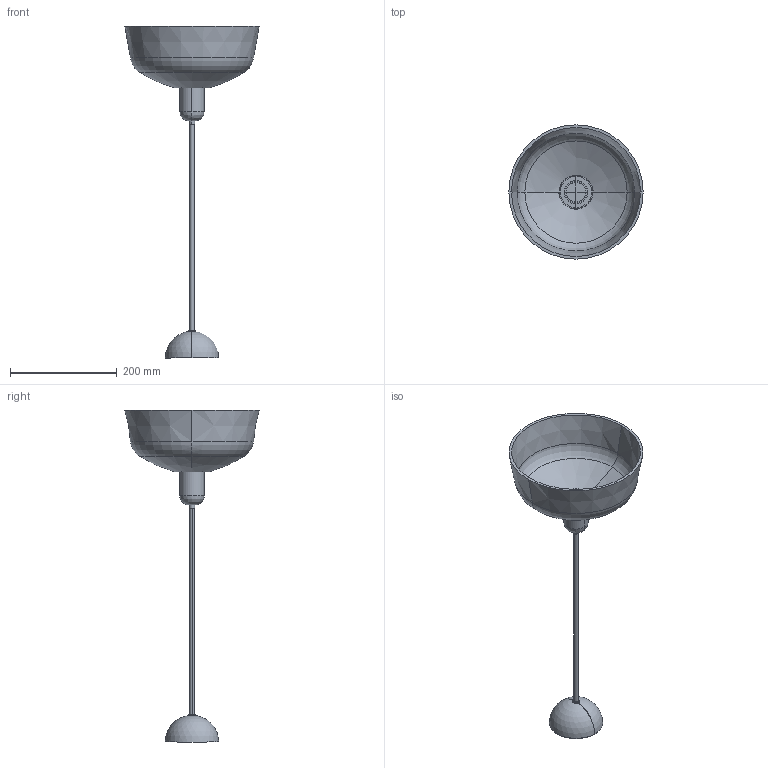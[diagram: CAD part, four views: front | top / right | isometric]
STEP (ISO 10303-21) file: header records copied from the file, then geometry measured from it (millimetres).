
FILE_DESCRIPTION(/* description */ (''),/* implementation_level */ '2;1');
FILE_NAME(/* name */ '20339-119.step',/* time_stamp */ '2024-05-29T13:30:05+02:00',/* author */ ('RenataManzini'),/* organization */ (''),/* preprocessor_version */ 'ST-DEVELOPER v20',/* originating_system */ 'AutoCAD Mechanical',/* authorisation */ '');
FILE_SCHEMA (('AUTOMOTIVE_DESIGN { 1 0 10303 214 3 1 1 }'));
Length unit declared in the file: millimetre
Products named in the file (3): Product; pieza_pantalla_M - Lamp Holder-640539-_3D_; pieza_TATAWIN_LAMP_LINEALrfa - soporte-639707-_3D_
Assembly tree (2 placements, depth 2):
  Product
    pieza_pantalla_M - Lamp Holder-640539-_3D_
    pieza_TATAWIN_LAMP_LINEALrfa - soporte-639707-_3D_
Bounding box: 251.84 x 251.84 x 622.36 mm (x, y, z)
Volume: 636256.3 mm3; surface area: 268275.9 mm2
Topology: 7 solids, 7 shells, 126 faces, 285 edges, 169 vertices
Faces by surface type: plane 56, cylinder 46, torus 8, bspline 6, cone 6, sphere 4
Entity records: 4521 total; most frequent: CARTESIAN_POINT 1602, DIRECTION 630, ORIENTED_EDGE 564, EDGE_CURVE 282, AXIS2_PLACEMENT_3D 248, VERTEX_POINT 164, LINE 134, VECTOR 134
